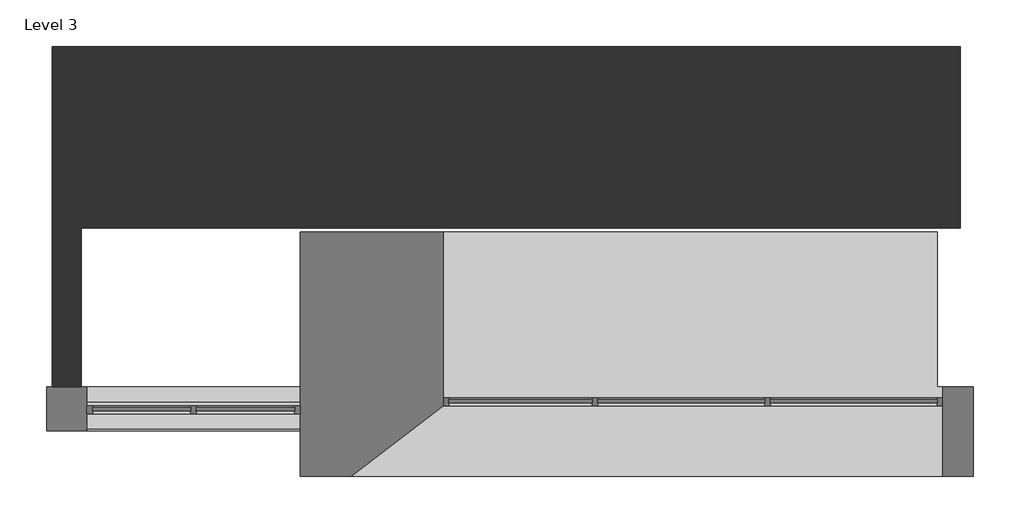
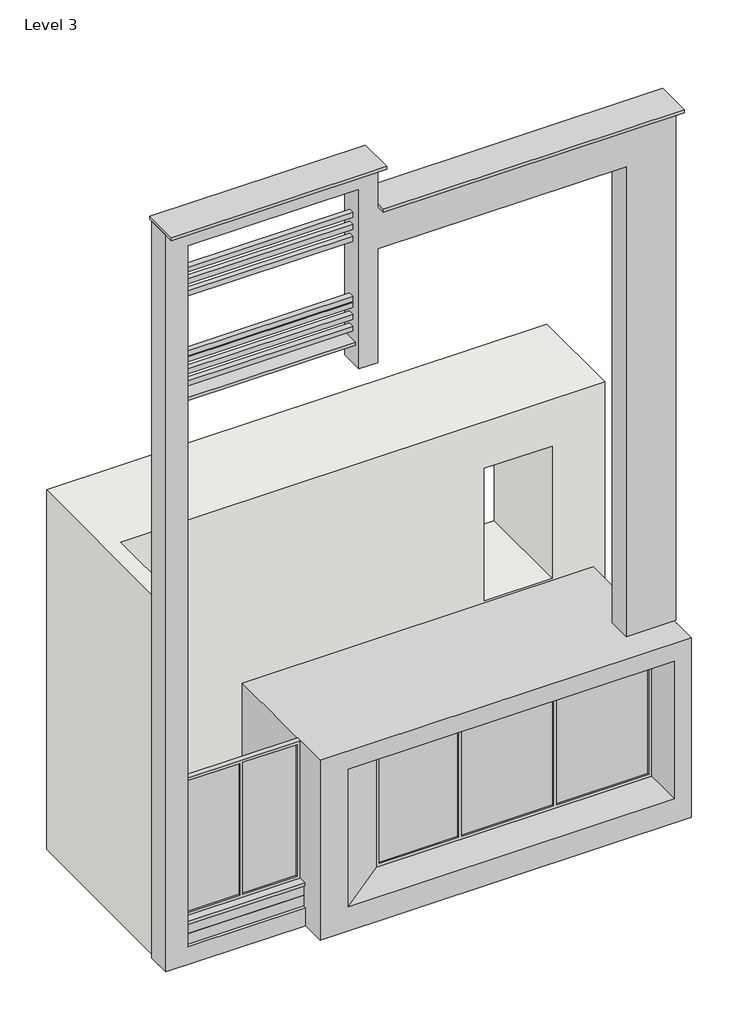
# One storey: 5 proxies, 1 wall.
"""IFC4 building model written with IfcOpenShell, lengths in millimetres."""

from ifc_helpers import new_model, si_unit, origin, place, context, project, spatial, transform, mapped, element, save
from components import generic_models_10_generic_models_3_9e2f4020, generic_models_11_generic_models_3_47c23c9b, generic_models_5_generic_models_5_601947af, generic_models_6_generic_models_2_9ead7fc9, generic_models_7_generic_models_7_24e08bad, walls_4_walls_4_3fb20297

model = new_model("IFC4")

# Units and contexts
model_context = context("Model", 3, world=origin())
ifc_project = project(units=[si_unit("LENGTHUNIT", "METRE", prefix="MILLI")], contexts=[model_context])

# Site, building, storey
site = spatial("IfcSite", under=ifc_project)
building = spatial("IfcBuilding", under=site)
storey = spatial("IfcBuildingStorey", under=building, Name="Level 3", Elevation=6000.0)

# Proxies
placement = place(None, origin())
generic_models_10_generic_models_3_shape = generic_models_10_generic_models_3_9e2f4020(model_context)
element("IfcBuildingElementProxy", 1, Name="Generic Models 10 : Generic Models 3", ObjectType="Generic Models 10 : Generic Models 3", at=placement, inside=storey, context=model_context, shape_type="MappedRepresentation", body=[
    mapped(generic_models_10_generic_models_3_shape, transform((0.0, -198.24366, 0.0), x_axis=(1.0, 0.0, 0.0), y_axis=(0.0, 1.0, 0.0), z_axis=(0.0, 0.0, 1.0))),
])
generic_models_11_generic_models_3_shape = generic_models_11_generic_models_3_47c23c9b(model_context)
element("IfcBuildingElementProxy", 2, Name="Generic Models 11 : Generic Models 3", ObjectType="Generic Models 11 : Generic Models 3", at=placement, inside=storey, context=model_context, shape_type="MappedRepresentation", body=[
    mapped(generic_models_11_generic_models_3_shape, transform((0.0, 0.0, 0.0), x_axis=(1.0, 0.0, 0.0), y_axis=(0.0, 1.0, 0.0), z_axis=(0.0, 0.0, 1.0))),
])
generic_models_5_generic_models_5_shape = generic_models_5_generic_models_5_601947af(model_context)
element("IfcBuildingElementProxy", 3, Name="Generic Models 5 : Generic Models 5", ObjectType="Generic Models 5 : Generic Models 5", at=placement, inside=storey, context=model_context, shape_type="MappedRepresentation", body=[
    mapped(generic_models_5_generic_models_5_shape, transform((0.0, 0.0, 0.0), x_axis=(1.0, 0.0, 0.0), y_axis=(0.0, 1.0, 0.0), z_axis=(0.0, 0.0, 1.0))),
])
generic_models_6_generic_models_2_shape = generic_models_6_generic_models_2_9ead7fc9(model_context)
element("IfcBuildingElementProxy", 4, Name="Generic Models 6 : Generic Models 2", ObjectType="Generic Models 6 : Generic Models 2", at=placement, inside=storey, context=model_context, shape_type="MappedRepresentation", body=[
    mapped(generic_models_6_generic_models_2_shape, transform((0.0, 0.0, 0.0), x_axis=(1.0, 0.0, 0.0), y_axis=(0.0, 1.0, 0.0), z_axis=(0.0, 0.0, 1.0))),
])
generic_models_7_generic_models_7_shape = generic_models_7_generic_models_7_24e08bad(model_context)
element("IfcBuildingElementProxy", 5, Name="Generic Models 7 : Generic Models 7", ObjectType="Generic Models 7 : Generic Models 7", at=placement, inside=storey, context=model_context, shape_type="MappedRepresentation", body=[
    mapped(generic_models_7_generic_models_7_shape, transform((0.0, 0.0, 0.0), x_axis=(1.0, 0.0, 0.0), y_axis=(0.0, 1.0, 0.0), z_axis=(0.0, 0.0, 1.0))),
])

# Wall
walls_4_walls_4_shape = walls_4_walls_4_3fb20297(model_context)
element("IfcWall", 6, ObjectType="Walls 4 : Walls 4", at=placement, inside=storey, context=model_context, shape_type="MappedRepresentation", body=[
    mapped(walls_4_walls_4_shape, transform((0.0, 0.0, 0.0), x_axis=(1.0, 0.0, 0.0), y_axis=(0.0, 1.0, 0.0), z_axis=(0.0, 0.0, 1.0))),
])

save(model, "model.ifc")
